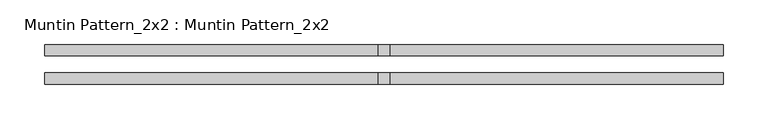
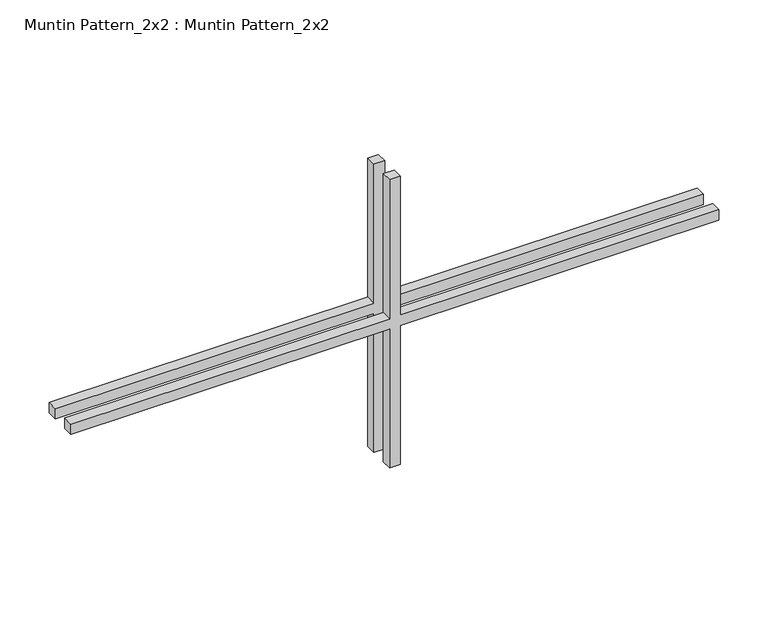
"""IFC4 building model written with IfcOpenShell, lengths in millimetres: proxy geometry, Muntin Pattern_2x2 : Muntin Pattern_2x2."""

from ifc_helpers import new_model, si_unit, frame, origin, place, context, project, spatial, polyline, outline, extrude, source, transform, mapped, element, save


def muntin_pattern_2x2_muntin_pattern_2x2_e6411d05(model_context):
    return source(origin(), model_context, "Body", "SweptSolid", [
        extrude(outline(polyline([(185.7375, -6.35), (185.7375, -381.0), (173.0375, -381.0), (173.0375, -6.35), (0.0, -6.35), (0.0, 6.35), (173.0375, 6.35), (173.0375, 381.0), (185.7375, 381.0), (185.7375, 6.35), (358.775, 6.35), (358.775, -6.35), (185.7375, -6.35)])), frame((0.0, 9.525, 0.0), z_axis=(0.0, 1.0, 0.0), x_axis=(0.0, 0.0, 1.0)), (0.0, 0.0, 1.0), 12.7),
        extrude(outline(polyline([(185.7375, -6.35), (185.7375, -381.0), (173.0375, -381.0), (173.0375, -6.35), (0.0, -6.35), (0.0, 6.35), (173.0375, 6.35), (173.0375, 381.0), (185.7375, 381.0), (185.7375, 6.35), (358.775, 6.35), (358.775, -6.35), (185.7375, -6.35)])), frame((0.0, -22.225, 0.0), z_axis=(0.0, 1.0, 0.0), x_axis=(0.0, 0.0, 1.0)), (0.0, 0.0, 1.0), 12.7),
    ])


if __name__ == "__main__":
    model = new_model("IFC4")
    model_context = context("Model", 3, world=origin())
    ifc_project = project(units=[si_unit("LENGTHUNIT", "METRE", prefix="MILLI")], contexts=[model_context])
    site = spatial("IfcSite", under=ifc_project)
    building = spatial("IfcBuilding", under=site)
    placement = place(None, origin())
    muntin_pattern_2x2_muntin_pattern_2x2_shape = muntin_pattern_2x2_muntin_pattern_2x2_e6411d05(model_context)
    element("IfcBuildingElementProxy", 1, Name="Muntin Pattern_2x2 : Muntin Pattern_2x2", ObjectType="Muntin Pattern_2x2 : Muntin Pattern_2x2", at=placement, inside=building, context=model_context, shape_type="MappedRepresentation", body=[
        mapped(muntin_pattern_2x2_muntin_pattern_2x2_shape, transform((0.0, 0.0, 0.0), x_axis=(1.0, 0.0, 0.0), y_axis=(0.0, 1.0, 0.0), z_axis=(0.0, 0.0, 1.0))),
    ])
    save(model, "model.ifc")
